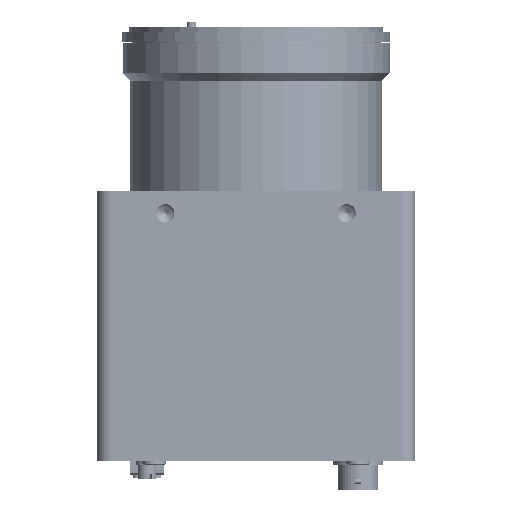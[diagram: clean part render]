
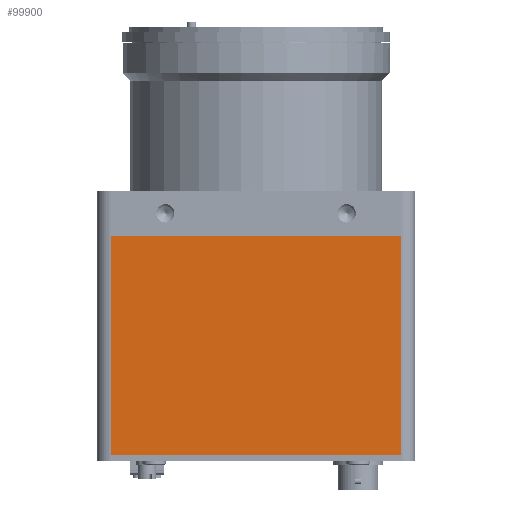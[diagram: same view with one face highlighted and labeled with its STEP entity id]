
A CAD part, left-side view. The second image highlights one B-rep face of the part: STEP entity #99900.
In plain terms, the highlighted planar face has unit normal (-1, 0, 0).
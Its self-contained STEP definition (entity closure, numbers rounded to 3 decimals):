
#12446 = ORIENTED_EDGE ( 'NONE', *, *, #148314, .F. ) ;
#22194 = LINE ( 'NONE', #53756, #34431 ) ;
#27142 = VECTOR ( 'NONE', #164529, 1000. ) ;
#34431 = VECTOR ( 'NONE', #150878, 1000. ) ;
#36288 = VERTEX_POINT ( 'NONE', #131640 ) ;
#38170 = ORIENTED_EDGE ( 'NONE', *, *, #42996, .T. ) ;
#42996 = EDGE_CURVE ( 'NONE', #205857, #36288, #79023, .T. ) ;
#53756 = CARTESIAN_POINT ( 'NONE',  ( -32., 35., -48.2 ) ) ;
#58262 = DIRECTION ( 'NONE',  ( -1., 0., 0. ) ) ;
#64853 = CARTESIAN_POINT ( 'NONE',  ( -32., -32., -48.2 ) ) ;
#64906 = EDGE_CURVE ( 'NONE', #225041, #72595, #116205, .T. ) ;
#65997 = CARTESIAN_POINT ( 'NONE',  ( -32., 35., 0. ) ) ;
#70628 = VECTOR ( 'NONE', #105105, 1000. ) ;
#72595 = VERTEX_POINT ( 'NONE', #125270 ) ;
#76183 = CARTESIAN_POINT ( 'NONE',  ( -32., 32., 0. ) ) ;
#76750 = LINE ( 'NONE', #65997, #70628 ) ;
#79023 = LINE ( 'NONE', #64853, #27142 ) ;
#99900 = ADVANCED_FACE ( 'NONE', ( #129958 ), #251856, .T. ) ;
#105050 = EDGE_CURVE ( 'NONE', #72595, #205857, #22194, .T. ) ;
#105105 = DIRECTION ( 'NONE',  ( 0., -1., 0. ) ) ;
#108490 = CARTESIAN_POINT ( 'NONE',  ( -32., 32., -48.2 ) ) ;
#109554 = CARTESIAN_POINT ( 'NONE',  ( -32., -32., -48.2 ) ) ;
#116139 = DIRECTION ( 'NONE',  ( 0., -1., 0. ) ) ;
#116205 = LINE ( 'NONE', #108490, #211068 ) ;
#125270 = CARTESIAN_POINT ( 'NONE',  ( -32., 32., -48.2 ) ) ;
#125803 = ORIENTED_EDGE ( 'NONE', *, *, #64906, .T. ) ;
#129958 = FACE_OUTER_BOUND ( 'NONE', #225829, .T. ) ;
#131640 = CARTESIAN_POINT ( 'NONE',  ( -32., -32., 0. ) ) ;
#148314 = EDGE_CURVE ( 'NONE', #225041, #36288, #76750, .T. ) ;
#150878 = DIRECTION ( 'NONE',  ( 0., -1., 0. ) ) ;
#164529 = DIRECTION ( 'NONE',  ( 0., 0., 1. ) ) ;
#175089 = CARTESIAN_POINT ( 'NONE',  ( -32., 35., -48.2 ) ) ;
#186781 = ORIENTED_EDGE ( 'NONE', *, *, #105050, .T. ) ;
#205857 = VERTEX_POINT ( 'NONE', #109554 ) ;
#211068 = VECTOR ( 'NONE', #223872, 1000. ) ;
#223872 = DIRECTION ( 'NONE',  ( 0., 0., -1. ) ) ;
#225041 = VERTEX_POINT ( 'NONE', #76183 ) ;
#225829 = EDGE_LOOP ( 'NONE', ( #186781, #38170, #12446, #125803 ) ) ;
#238630 = AXIS2_PLACEMENT_3D ( 'NONE', #175089, #58262, #116139 ) ;
#251856 = PLANE ( 'NONE',  #238630 ) ;
